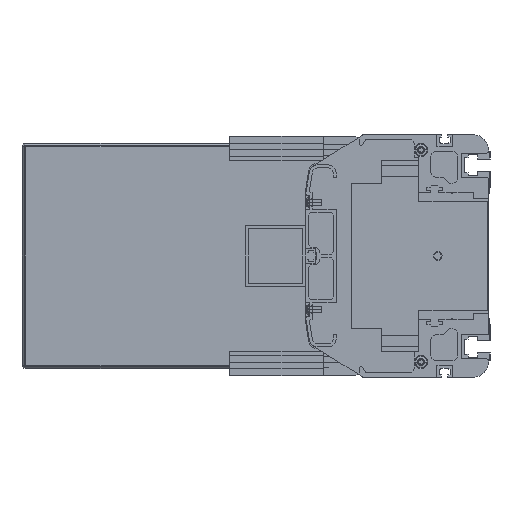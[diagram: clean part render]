
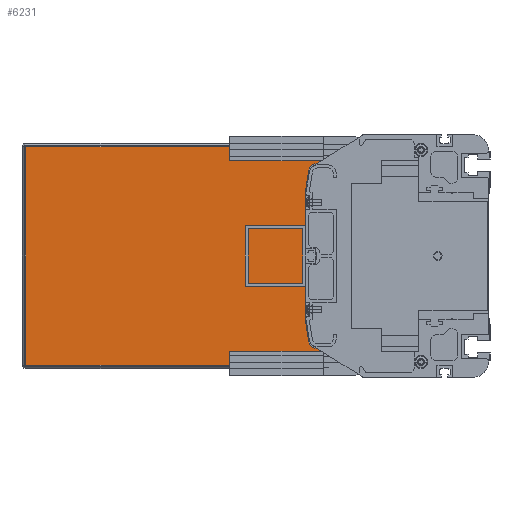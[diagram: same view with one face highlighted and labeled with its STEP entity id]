
A CAD part, left-side view. The second image highlights one B-rep face of the part: STEP entity #6231.
In plain terms, the highlighted planar face has unit normal (-1, 0, 0).
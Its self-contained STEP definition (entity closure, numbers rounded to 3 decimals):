
#17=DIRECTION('',(0.,1.,0.));
#18=VECTOR('',#17,28.728);
#19=CARTESIAN_POINT('',(4886.5,86.,-61.));
#20=LINE('',#19,#18);
#97=DIRECTION('',(0.,0.,-1.));
#98=VECTOR('',#97,11.);
#99=CARTESIAN_POINT('',(4886.5,86.,72.));
#100=LINE('',#99,#98);
#121=DIRECTION('',(0.,0.,-1.));
#122=VECTOR('',#121,11.);
#123=CARTESIAN_POINT('',(4886.5,86.,-61.));
#124=LINE('',#123,#122);
#129=DIRECTION('',(0.,-1.,0.));
#130=VECTOR('',#129,28.728);
#131=CARTESIAN_POINT('',(4886.5,114.728,61.));
#132=LINE('',#131,#130);
#1739=DIRECTION('',(0.,1.,0.));
#1740=VECTOR('',#1739,220.5);
#1741=CARTESIAN_POINT('',(4886.5,86.,72.));
#1742=LINE('',#1741,#1740);
#1747=CARTESIAN_POINT('',(4886.5,114.728,56.));
#1748=DIRECTION('',(-1.,0.,0.));
#1749=DIRECTION('',(0.,0.,1.));
#1750=AXIS2_PLACEMENT_3D('',#1747,#1748,#1749);
#1752=DIRECTION('',(0.,0.156,-0.988));
#1753=VECTOR('',#1752,14.963);
#1754=CARTESIAN_POINT('',(4886.5,119.666,56.78));
#1755=LINE('',#1754,#1753);
#1756=DIRECTION('',(0.,-0.156,-0.988));
#1757=VECTOR('',#1756,14.963);
#1758=CARTESIAN_POINT('',(4886.5,122.,-42.));
#1759=LINE('',#1758,#1757);
#1760=CARTESIAN_POINT('',(4886.5,114.728,-56.));
#1761=DIRECTION('',(-1.,0.,0.));
#1762=DIRECTION('',(0.,0.988,-0.156));
#1763=AXIS2_PLACEMENT_3D('',#1760,#1761,#1762);
#1769=DIRECTION('',(0.,-1.,0.));
#1770=VECTOR('',#1769,220.5);
#1771=CARTESIAN_POINT('',(4886.5,306.5,-72.));
#1772=LINE('',#1771,#1770);
#2245=DIRECTION('',(0.,0.,-1.));
#2246=VECTOR('',#2245,144.);
#2247=CARTESIAN_POINT('',(4886.5,306.5,72.));
#2248=LINE('',#2247,#2246);
#2570=DIRECTION('',(0.,0.,1.));
#2571=VECTOR('',#2570,84.);
#2572=CARTESIAN_POINT('',(4886.5,122.,-42.));
#2573=LINE('',#2572,#2571);
#3201=CARTESIAN_POINT('',(4886.5,306.5,-72.));
#3202=CARTESIAN_POINT('',(4886.5,86.,-72.));
#3203=VERTEX_POINT('',#3201);
#3204=VERTEX_POINT('',#3202);
#3205=CARTESIAN_POINT('',(4886.5,86.,-61.));
#3206=VERTEX_POINT('',#3205);
#3207=CARTESIAN_POINT('',(4886.5,114.728,-61.));
#3208=VERTEX_POINT('',#3207);
#3209=CARTESIAN_POINT('',(4886.5,119.666,-56.78));
#3210=VERTEX_POINT('',#3209);
#3211=CARTESIAN_POINT('',(4886.5,122.,-42.));
#3212=VERTEX_POINT('',#3211);
#3213=CARTESIAN_POINT('',(4886.5,122.,42.));
#3214=VERTEX_POINT('',#3213);
#3215=CARTESIAN_POINT('',(4886.5,119.666,56.78));
#3216=VERTEX_POINT('',#3215);
#3217=CARTESIAN_POINT('',(4886.5,114.728,61.));
#3218=VERTEX_POINT('',#3217);
#3219=CARTESIAN_POINT('',(4886.5,86.,61.));
#3220=VERTEX_POINT('',#3219);
#3221=CARTESIAN_POINT('',(4886.5,86.,72.));
#3222=VERTEX_POINT('',#3221);
#3223=CARTESIAN_POINT('',(4886.5,306.5,72.));
#3224=VERTEX_POINT('',#3223);
#6207=CARTESIAN_POINT('',(4886.5,196.25,0.));
#6208=DIRECTION('',(1.,0.,0.));
#6209=DIRECTION('',(0.,0.,-1.));
#6210=AXIS2_PLACEMENT_3D('',#6207,#6208,#6209);
#6211=PLANE('',#6210);
#6213=ORIENTED_EDGE('',*,*,#6212,.F.);
#6215=ORIENTED_EDGE('',*,*,#6214,.F.);
#6216=ORIENTED_EDGE('',*,*,#6199,.F.);
#6217=ORIENTED_EDGE('',*,*,#4101,.T.);
#6218=ORIENTED_EDGE('',*,*,#4152,.F.);
#6220=ORIENTED_EDGE('',*,*,#6219,.T.);
#6222=ORIENTED_EDGE('',*,*,#6221,.T.);
#6224=ORIENTED_EDGE('',*,*,#6223,.F.);
#6225=ORIENTED_EDGE('',*,*,#3917,.T.);
#6226=ORIENTED_EDGE('',*,*,#3933,.T.);
#6227=ORIENTED_EDGE('',*,*,#3950,.F.);
#6228=ORIENTED_EDGE('',*,*,#4136,.T.);
#6229=EDGE_LOOP('',(#6213,#6215,#6216,#6217,#6218,#6220,#6222,#6224,#6225,#6226,
#6227,#6228));
#6230=FACE_OUTER_BOUND('',#6229,.F.);
#6231=ADVANCED_FACE('',(#6230),#6211,.F.);
#1751=CIRCLE('',#1750,5.);
#1764=CIRCLE('',#1763,5.);
#3917=EDGE_CURVE('',#3212,#3210,#1759,.T.);
#3933=EDGE_CURVE('',#3210,#3208,#1764,.T.);
#3950=EDGE_CURVE('',#3206,#3208,#20,.T.);
#4101=EDGE_CURVE('',#3222,#3220,#100,.T.);
#4136=EDGE_CURVE('',#3206,#3204,#124,.T.);
#4152=EDGE_CURVE('',#3218,#3220,#132,.T.);
#6199=EDGE_CURVE('',#3222,#3224,#1742,.T.);
#6212=EDGE_CURVE('',#3203,#3204,#1772,.T.);
#6214=EDGE_CURVE('',#3224,#3203,#2248,.T.);
#6219=EDGE_CURVE('',#3218,#3216,#1751,.T.);
#6221=EDGE_CURVE('',#3216,#3214,#1755,.T.);
#6223=EDGE_CURVE('',#3212,#3214,#2573,.T.);
